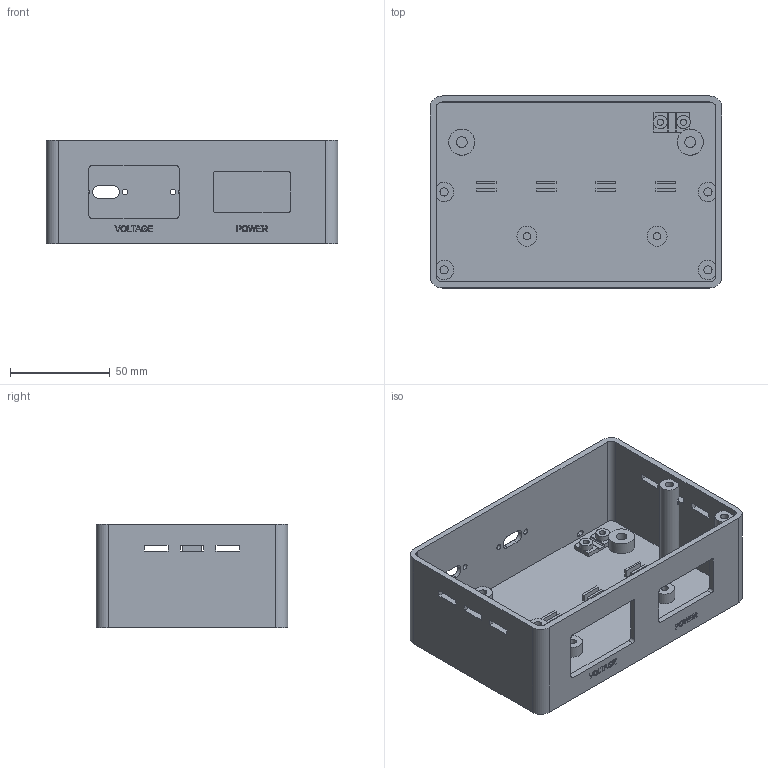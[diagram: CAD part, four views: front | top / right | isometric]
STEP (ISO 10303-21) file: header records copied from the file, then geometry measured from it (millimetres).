
FILE_DESCRIPTION(('Open CASCADE Model'),'2;1');
FILE_NAME('Open CASCADE Shape Model','2026-07-22T19:58:17',('Author'),( 'Open CASCADE'),'Open CASCADE STEP processor 7.9','Open CASCADE 7.9' ,'Unknown');
FILE_SCHEMA(('AUTOMOTIVE_DESIGN { 1 0 10303 214 1 1 1 1 }'));
Length unit declared in the file: millimetre
Products named in the file (1): Open CASCADE STEP translator 7.9 1
Bounding box: 146 x 96 x 52 mm (x, y, z)
Volume: 120707.3 mm3; surface area: 78005.1 mm2
Topology: 1 solids, 1 shells, 752 faces, 2052 edges, 1368 vertices
Faces by surface type: plane 471, extrusion 217, cylinder 64
Full cylindrical faces by diameter (mm): 2.8 x4, 3.1 x2, 3.6 x2, 4.1 x4, 5.5 x2, 6.8 x2, 10 x2, 13 x2
Entity records: 53394 total; most frequent: CARTESIAN_POINT 15675, DIRECTION 5538, ORIENTED_EDGE 4104, PCURVE 4104, DEFINITIONAL_REPRESENTATION 4104, VECTOR 4098, LINE 3881, B_SPLINE_CURVE_WITH_KNOTS 2208
